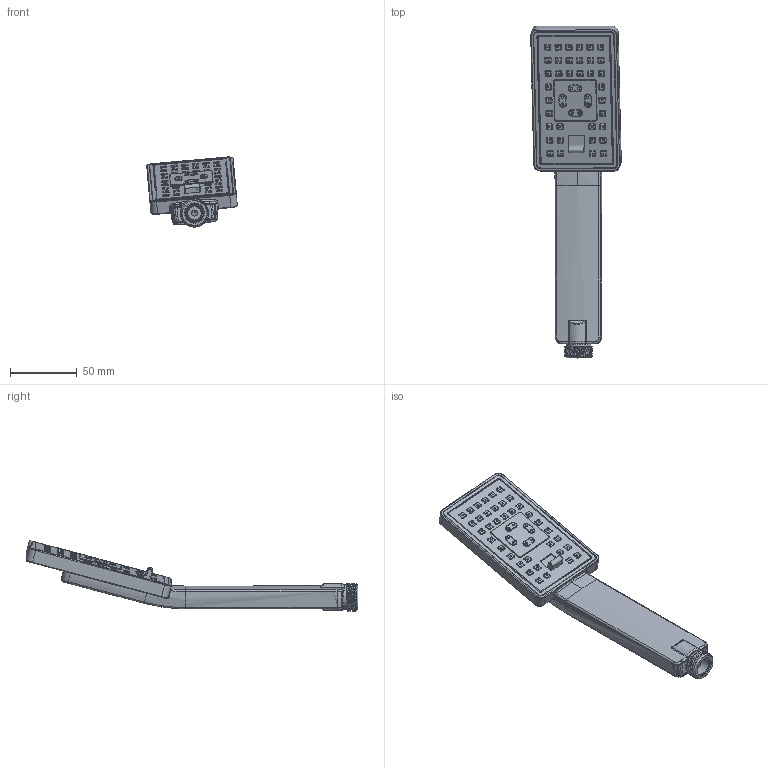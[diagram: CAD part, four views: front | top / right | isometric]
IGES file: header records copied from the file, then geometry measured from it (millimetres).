
Global section: file name: ef33b586-7bea-42cf-b378-cd193af9421b; native system: unknown; preprocessor: unknown; author: unknown; organization: unknown; date: 20200702.065805; units: millimetre
Bounding box: 67.84 x 248.69 x 52.51 mm (x, y, z)
Volume: 107720 mm3; surface area: 100599.5 mm2
Topology: 8 solids, 8 shells, 4938 faces, 12635 edges, 7805 vertices
Faces by surface type: bspline 4938
